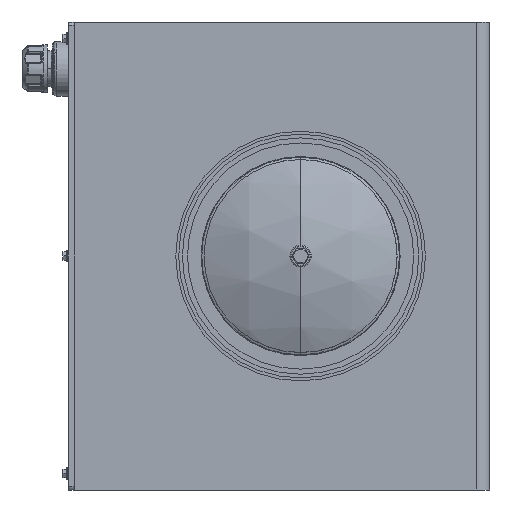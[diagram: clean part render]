
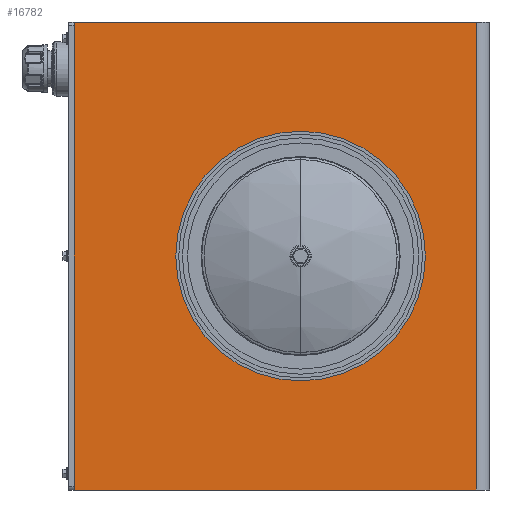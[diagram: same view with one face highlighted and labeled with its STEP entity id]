
A CAD part, left-side view. The second image highlights one B-rep face of the part: STEP entity #16782.
In plain terms, the highlighted planar face has unit normal (-1, 0, 0).
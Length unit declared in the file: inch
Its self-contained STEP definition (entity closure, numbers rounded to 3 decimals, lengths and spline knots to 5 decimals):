
#423 = LINE ( 'NONE', #20042, #26980 ) ;
#1088 = CARTESIAN_POINT ( 'NONE',  ( -31.7908, -13.87786, 15.18803 ) ) ;
#1315 = EDGE_CURVE ( 'NONE', #12574, #19996, #6538, .T. ) ;
#1403 = LINE ( 'NONE', #4945, #27143 ) ;
#2339 = DIRECTION ( 'NONE',  ( 0., 0., -1. ) ) ;
#3538 = LINE ( 'NONE', #6369, #24012 ) ;
#3934 = CIRCLE ( 'NONE', #17339, 6.75 ) ;
#4169 = ORIENTED_EDGE ( 'NONE', *, *, #15524, .F. ) ;
#4347 = DIRECTION ( 'NONE',  ( -1., 0., 0. ) ) ;
#4609 = ORIENTED_EDGE ( 'NONE', *, *, #1315, .F. ) ;
#4649 = DIRECTION ( 'NONE',  ( 0., -0.034, 0.999 ) ) ;
#4842 = LINE ( 'NONE', #28123, #10874 ) ;
#4945 = CARTESIAN_POINT ( 'NONE',  ( -31.7908, 11.90334, -14.81197 ) ) ;
#5485 = EDGE_CURVE ( 'NONE', #15006, #12574, #18365, .T. ) ;
#6192 = CARTESIAN_POINT ( 'NONE',  ( -31.7908, -14.72166, -14.81197 ) ) ;
#6369 = CARTESIAN_POINT ( 'NONE',  ( -31.7908, -8.47666, 0.18803 ) ) ;
#6538 = CIRCLE ( 'NONE', #16957, 6.75 ) ;
#6676 = CARTESIAN_POINT ( 'NONE',  ( -31.7908, 11.90334, -14.81197 ) ) ;
#7146 = AXIS2_PLACEMENT_3D ( 'NONE', #19727, #4347, #22317 ) ;
#7538 = CARTESIAN_POINT ( 'NONE',  ( -31.7908, -13.87786, -14.81197 ) ) ;
#8699 = EDGE_LOOP ( 'NONE', ( #28604, #29865, #16545, #16158 ) ) ;
#8855 = EDGE_CURVE ( 'NONE', #28636, #19594, #21780, .T. ) ;
#8983 = AXIS2_PLACEMENT_3D ( 'NONE', #6676, #11830, #29873 ) ;
#10074 = CARTESIAN_POINT ( 'NONE',  ( -31.7908, 11.90334, -14.81197 ) ) ;
#10449 = CARTESIAN_POINT ( 'NONE',  ( -31.7908, 11.90334, 15.18803 ) ) ;
#10602 = ORIENTED_EDGE ( 'NONE', *, *, #32418, .F. ) ;
#10874 = VECTOR ( 'NONE', #28019, 39.37008 ) ;
#11830 = DIRECTION ( 'NONE',  ( 1., 0., 0. ) ) ;
#11831 = ORIENTED_EDGE ( 'NONE', *, *, #15749, .F. ) ;
#12574 = VERTEX_POINT ( 'NONE', #29996 ) ;
#12614 = VERTEX_POINT ( 'NONE', #30209 ) ;
#13021 = EDGE_CURVE ( 'NONE', #30178, #28636, #18529, .T. ) ;
#13229 = VERTEX_POINT ( 'NONE', #10449 ) ;
#14489 = DIRECTION ( 'NONE',  ( -1., 0., 0. ) ) ;
#14501 = CARTESIAN_POINT ( 'NONE',  ( -31.7908, -2.60666, 0.18803 ) ) ;
#15006 = VERTEX_POINT ( 'NONE', #32524 ) ;
#15524 = EDGE_CURVE ( 'NONE', #12614, #15006, #3538, .T. ) ;
#15749 = EDGE_CURVE ( 'NONE', #19996, #31067, #3934, .T. ) ;
#16158 = ORIENTED_EDGE ( 'NONE', *, *, #13021, .T. ) ;
#16545 = ORIENTED_EDGE ( 'NONE', *, *, #18783, .T. ) ;
#16782 = ADVANCED_FACE ( 'NONE', ( #32068, #25133 ), #19465, .F. ) ;
#16957 = AXIS2_PLACEMENT_3D ( 'NONE', #14501, #32550, #17102 ) ;
#17102 = DIRECTION ( 'NONE',  ( 0., 0., 1. ) ) ;
#17339 = AXIS2_PLACEMENT_3D ( 'NONE', #29956, #14489, #32543 ) ;
#18365 = CIRCLE ( 'NONE', #7146, 6.75 ) ;
#18529 = LINE ( 'NONE', #6192, #25345 ) ;
#18783 = EDGE_CURVE ( 'NONE', #13229, #30178, #1403, .T. ) ;
#18982 = DIRECTION ( 'NONE',  ( 0., -1., 0. ) ) ;
#19465 = PLANE ( 'NONE',  #8983 ) ;
#19594 = VERTEX_POINT ( 'NONE', #1088 ) ;
#19727 = CARTESIAN_POINT ( 'NONE',  ( -31.7908, -2.60666, 0.18803 ) ) ;
#19996 = VERTEX_POINT ( 'NONE', #26105 ) ;
#20042 = CARTESIAN_POINT ( 'NONE',  ( -31.7908, -8.47666, 0.18803 ) ) ;
#21734 = DIRECTION ( 'NONE',  ( 0., 0.034, 0.999 ) ) ;
#21780 = LINE ( 'NONE', #29893, #27012 ) ;
#22317 = DIRECTION ( 'NONE',  ( 0., 0., 1. ) ) ;
#22379 = CARTESIAN_POINT ( 'NONE',  ( -31.7908, -8.35666, -3.3475 ) ) ;
#24012 = VECTOR ( 'NONE', #21734, 39.37008 ) ;
#25133 = FACE_OUTER_BOUND ( 'NONE', #8699, .T. ) ;
#25345 = VECTOR ( 'NONE', #18982, 39.37008 ) ;
#26105 = CARTESIAN_POINT ( 'NONE',  ( -31.7908, -2.60666, -6.56197 ) ) ;
#26756 = EDGE_LOOP ( 'NONE', ( #4169, #10602, #11831, #4609, #29829 ) ) ;
#26980 = VECTOR ( 'NONE', #4649, 39.37008 ) ;
#27012 = VECTOR ( 'NONE', #32481, 39.37008 ) ;
#27143 = VECTOR ( 'NONE', #2339, 39.37008 ) ;
#28019 = DIRECTION ( 'NONE',  ( 0., 1., 0. ) ) ;
#28123 = CARTESIAN_POINT ( 'NONE',  ( -31.7908, -14.72166, 15.18803 ) ) ;
#28604 = ORIENTED_EDGE ( 'NONE', *, *, #8855, .T. ) ;
#28636 = VERTEX_POINT ( 'NONE', #7538 ) ;
#28646 = EDGE_CURVE ( 'NONE', #19594, #13229, #4842, .T. ) ;
#29829 = ORIENTED_EDGE ( 'NONE', *, *, #5485, .F. ) ;
#29865 = ORIENTED_EDGE ( 'NONE', *, *, #28646, .T. ) ;
#29873 = DIRECTION ( 'NONE',  ( 0., 0., -1. ) ) ;
#29893 = CARTESIAN_POINT ( 'NONE',  ( -31.7908, -13.87786, -14.81197 ) ) ;
#29956 = CARTESIAN_POINT ( 'NONE',  ( -31.7908, -2.60666, 0.18803 ) ) ;
#29996 = CARTESIAN_POINT ( 'NONE',  ( -31.7908, -2.60666, 6.93803 ) ) ;
#30178 = VERTEX_POINT ( 'NONE', #10074 ) ;
#30209 = CARTESIAN_POINT ( 'NONE',  ( -31.7908, -8.47666, 0.18803 ) ) ;
#31067 = VERTEX_POINT ( 'NONE', #22379 ) ;
#32068 = FACE_BOUND ( 'NONE', #26756, .T. ) ;
#32418 = EDGE_CURVE ( 'NONE', #31067, #12614, #423, .T. ) ;
#32481 = DIRECTION ( 'NONE',  ( 0., 0., 1. ) ) ;
#32524 = CARTESIAN_POINT ( 'NONE',  ( -31.7908, -8.35666, 3.72357 ) ) ;
#32543 = DIRECTION ( 'NONE',  ( 0., 0., 1. ) ) ;
#32550 = DIRECTION ( 'NONE',  ( -1., 0., 0. ) ) ;
